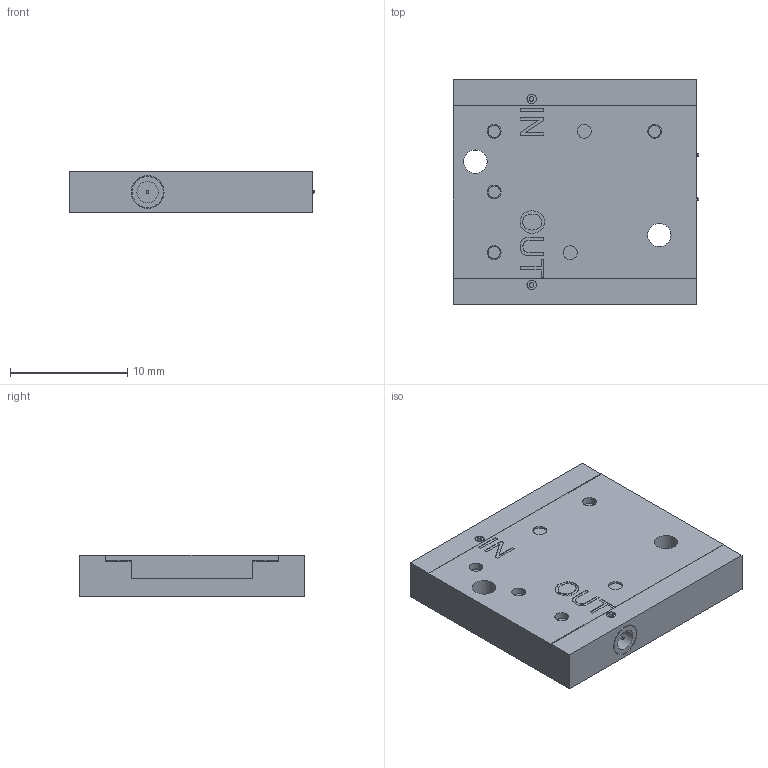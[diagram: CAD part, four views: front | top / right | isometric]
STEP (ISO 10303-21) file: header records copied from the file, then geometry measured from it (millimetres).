
FILE_DESCRIPTION(/* description */ (''),/* implementation_level */ '2;1');
FILE_NAME(/* name */ 'C:\$WorkingFolder\Engineering Data\Inventor Data\LNAs\X-band modules\X-band G3PO\X-Band G3PO Shrinkwrap.stp',/* time_stamp */ '2018-04-13T15:49:07+02:00',/* author */ ('Joel'),/* organization */ (''),/* preprocessor_version */ 'ST-DEVELOPER v16.13',/* originating_system */ 'Autodesk Inventor 2018',/* authorisation */ '');
FILE_SCHEMA (('AUTOMOTIVE_DESIGN { 1 0 10303 214 3 1 1 }'));
Length unit declared in the file: inch
Products named in the file (1): X-Band G3PO Shrinkwrap
Bounding box: 20.97 x 19.28 x 3.56 mm (x, y, z)
Surface area: 1684.1 mm2
Topology: 2 solids, 3 shells, 420 faces, 1043 edges, 693 vertices
Faces by surface type: plane 230, cylinder 105, bspline 61, cone 24
Full cylindrical faces by diameter (mm): 0.229 x4, 0.305 x5, 0.4 x2, 0.406 x9, 0.45 x7, 0.503 x6, 0.533 x2, 0.8 x2, 1.183 x6, 1.4 x6, 1.6 x6, 1.829 x4, 1.93 x2, 2 x4, 2.667 x2, 2.794 x2
Entity records: 12823 total; most frequent: CARTESIAN_POINT 3178, ORIENTED_EDGE 1830, DIRECTION 1719, EDGE_CURVE 915, VERTEX_POINT 657, EDGE_LOOP 592, AXIS2_PLACEMENT_3D 591, LINE 537
